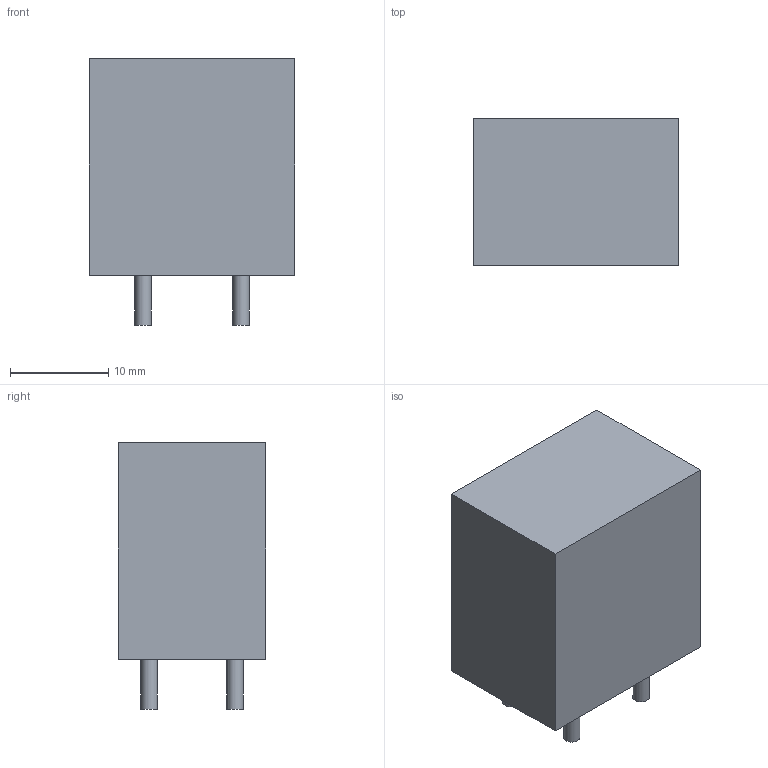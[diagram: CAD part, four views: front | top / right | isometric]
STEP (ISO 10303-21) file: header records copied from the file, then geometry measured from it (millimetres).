
FILE_DESCRIPTION(('FreeCAD Model'),'2;1');
FILE_NAME('/var/www/3D/0T/663439.1.1.stp','2020-04-09T05:08:36',( 'Author'),(''),'Open CASCADE STEP processor 6.9','FreeCAD','Unknown' );
FILE_SCHEMA(('AUTOMOTIVE_DESIGN { 1 0 10303 214 1 1 1 1 }'));
Length unit declared in the file: millimetre
Products named in the file (3): ASSEMBLY; Body; Leads
Assembly tree (5 placements, depth 2):
  ASSEMBLY
    Body
    Leads  x4
Bounding box: 21 x 15 x 27.2 mm (x, y, z)
Volume: 7146.7 mm3; surface area: 2729.6 mm2
Topology: 17 solids, 17 shells, 54 faces, 60 edges, 40 vertices
Faces by surface type: plane 38, cylinder 16
Full cylindrical faces by diameter (mm): 1.7 x16
Entity records: 799 total; most frequent: DIRECTION 128, CARTESIAN_POINT 112, LINE 56, VECTOR 56, ORIENTED_EDGE 48, PCURVE 48, DEFINITIONAL_REPRESENTATION 48, AXIS2_PLACEMENT_3D 32
